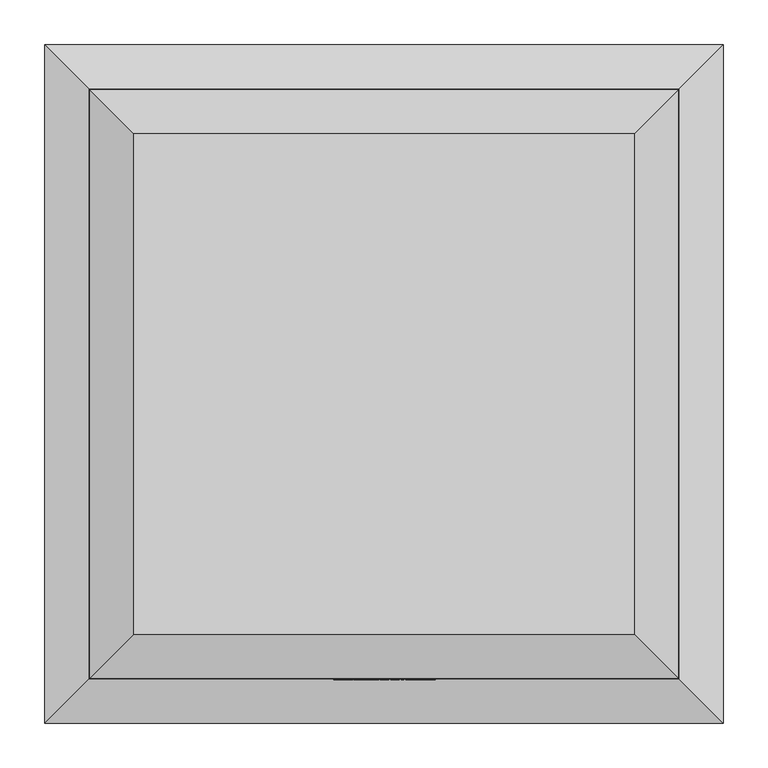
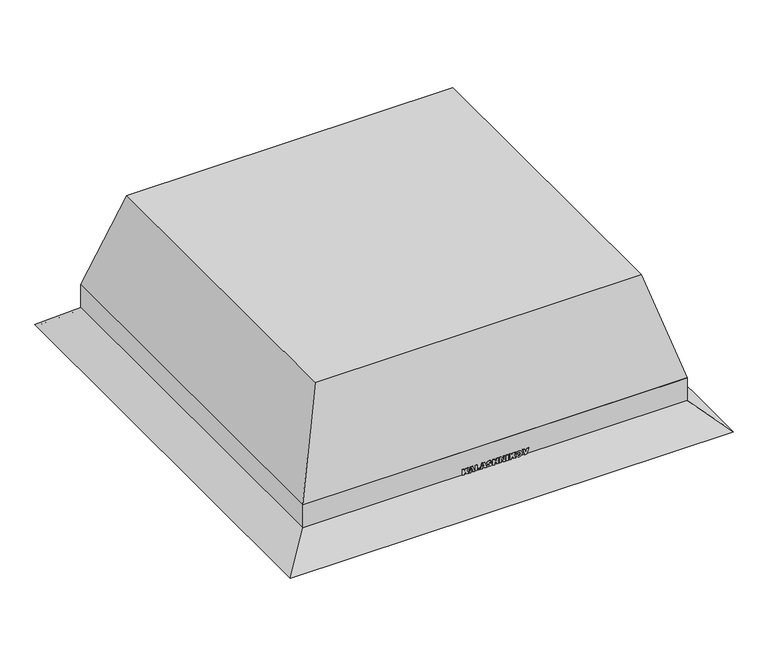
"""IFC4 building model written with IfcOpenShell, lengths in millimetres: proxy geometry, ADSK_Дестратификатор_Электрический : KVF-V-11."""

from ifc_helpers import new_model, si_unit, frame, origin, place, context, project, spatial, polyline, outline, extrude, faceted_brep, source, transform, mapped, element, save


def mechanical_equipment_aabc1666(model_context):
    return source(origin(), model_context, "Body", "SolidModel", [
        extrude(outline(polyline([(143.75, -56.4705882), (133.75, -56.4705882), (133.75, -53.3333333), (135.5147059, -53.3333333), (137.5245098, -51.5625), (133.75, -49.7303922), (133.75, -45.8823529), (140.0275735, -49.3566176), (143.75, -46.0784314), (143.75, -50.3492647), (139.9724265, -53.3333333), (143.75, -53.3333333), (143.75, -56.4705882)])), frame((0.0, -331.0, 0.0), z_axis=(0.0, 1.0, 0.0), x_axis=(0.0, 0.0, 1.0)), (0.0, 0.0, 1.0), 1.0),
        extrude(outline(polyline([(135.3186275, -38.8848039), (133.75, -38.4313725), (133.75, -35.0980392), (143.75, -38.471201), (143.75, -42.5091912), (133.75, -45.8823529), (133.75, -42.5490196), (135.3186275, -42.1170343), (135.3186275, -38.8848039)]), holes=[polyline([(137.6715686, -39.4791667), (137.6715686, -41.4675245), (141.2040441, -40.4901961), (137.6715686, -39.4791667)])]), frame((0.0, -331.0, 0.0), z_axis=(0.0, 1.0, 0.0), x_axis=(0.0, 0.0, 1.0)), (0.0, 0.0, 1.0), 1.0),
        extrude(outline(polyline([(143.75, -34.1176471), (133.75, -34.1176471), (133.75, -26.2745098), (136.1029412, -26.2745098), (136.1029412, -30.9803922), (143.75, -30.9803922), (143.75, -34.1176471)])), frame((0.0, -331.0, 0.0), z_axis=(0.0, 1.0, 0.0), x_axis=(0.0, 0.0, 1.0)), (0.0, 0.0, 1.0), 1.0),
        extrude(outline(polyline([(135.3186275, -18.8848039), (133.75, -18.4313725), (133.75, -15.0980392), (143.75, -18.471201), (143.75, -22.5091912), (133.75, -25.8823529), (133.75, -22.5490196), (135.3186275, -22.1170343), (135.3186275, -18.8848039)]), holes=[polyline([(137.6715686, -19.4791667), (137.6715686, -21.4675245), (141.2040441, -20.4901961), (137.6715686, -19.4791667)])]), frame((0.0, -331.0, 0.0), z_axis=(0.0, 1.0, 0.0), x_axis=(0.0, 0.0, 1.0)), (0.0, 0.0, 1.0), 1.0),
        extrude(outline(polyline([(137.0894608, -14.7058824), (134.5526961, -13.5998775), (133.5539216, -10.088848), (133.9797794, -7.6930147), (135.2313113, -6.2147672), (137.03125, -5.6862745), (138.5370711, -6.0814951), (139.6629902, -7.3468137), (140.5606618, -10.2267157), (142.1813725, -10.3584559), (141.8550858, -9.5848652), (140.8088235, -9.2156863), (140.9895833, -6.0784314), (143.2383578, -7.2564338), (143.9460784, -10.1317402), (143.5539216, -12.5520833), (142.4785539, -13.8740809), (141.026348, -14.3137255), (139.0992647, -13.4466912), (137.8737745, -10.5729167), (136.5686275, -8.8235294), (135.8318015, -9.1375613), (135.5147059, -10.0306373), (136.1458333, -11.2285539), (137.2794118, -11.5686275), (137.0894608, -14.7058824)])), frame((0.0, -331.0, 0.0), z_axis=(0.0, 1.0, 0.0), x_axis=(0.0, 0.0, 1.0)), (0.0, 0.0, 1.0), 1.0),
        extrude(outline(polyline([(143.75, -4.1176471), (133.75, -4.1176471), (133.75, -0.9803922), (137.8676471, -0.9803922), (137.8676471, 2.3529412), (133.75, 2.3529412), (133.75, 5.4901961), (143.75, 5.4901961), (143.75, 2.3529412), (140.2205882, 2.3529412), (140.2205882, -0.9803922), (143.75, -0.9803922), (143.75, -4.1176471)])), frame((0.0, -331.0, 0.0), z_axis=(0.0, 1.0, 0.0), x_axis=(0.0, 0.0, 1.0)), (0.0, 0.0, 1.0), 1.0),
        extrude(outline(polyline([(143.75, 7.4509804), (133.75, 7.4509804), (133.75, 10.3921569), (139.2401961, 10.3921569), (133.75, 14.1176471), (133.75, 17.0588235), (143.75, 17.0588235), (143.75, 14.1176471), (138.2230392, 14.1176471), (143.75, 10.3707108), (143.75, 7.4509804)])), frame((0.0, -331.0, 0.0), z_axis=(0.0, 1.0, 0.0), x_axis=(0.0, 0.0, 1.0)), (0.0, 0.0, 1.0), 1.0),
        extrude(outline(polyline([(22.3529412, -331.0), (19.2156863, -331.0), (19.2156863, -330.0), (22.3529412, -330.0), (22.3529412, -331.0)])), frame((0.0, 0.0, 133.75), z_axis=(0.0, 0.0, 1.0), x_axis=(1.0, 0.0, 0.0)), (0.0, 0.0, 1.0), 10.0),
        extrude(outline(polyline([(143.75, 24.5098039), (133.75, 24.5098039), (133.75, 27.6470588), (135.5147059, 27.6470588), (137.5245098, 29.4178922), (133.75, 31.25), (133.75, 35.0980392), (140.0275735, 31.6237745), (143.75, 34.9019608), (143.75, 30.6311275), (139.9724265, 27.6470588), (143.75, 27.6470588), (143.75, 24.5098039)])), frame((0.0, -331.0, 0.0), z_axis=(0.0, 1.0, 0.0), x_axis=(0.0, 0.0, 1.0)), (0.0, 0.0, 1.0), 1.0),
        extrude(outline(polyline([(138.7438725, 35.6862745), (135.8103554, 36.3771446), (134.096201, 38.1801471), (133.5539216, 40.9895833), (134.1804534, 43.7760417), (135.9359681, 45.4871324), (138.8265931, 46.0784314), (142.5995711, 44.7242647), (143.9460784, 40.8639706), (142.5750613, 37.0542279), (138.7438725, 35.6862745)]), holes=[polyline([(138.7438725, 38.8235294), (140.9313725, 39.3811275), (141.5931373, 40.8578431), (140.9420956, 42.3805147), (138.8786765, 42.9411765), (136.5548407, 42.4034926), (135.9068627, 40.8854167), (136.5686275, 39.3780637), (138.7438725, 38.8235294)])]), frame((0.0, -331.0, 0.0), z_axis=(0.0, 1.0, 0.0), x_axis=(0.0, 0.0, 1.0)), (0.0, 0.0, 1.0), 1.0),
        extrude(outline(polyline([(143.75, 46.8627451), (133.75, 50.5790441), (133.75, 53.9093137), (143.75, 57.6470588), (143.75, 54.3137255), (136.5533088, 52.254902), (143.75, 50.1930147), (143.75, 46.8627451)])), frame((0.0, -331.0, 0.0), z_axis=(0.0, 1.0, 0.0), x_axis=(0.0, 0.0, 1.0)), (0.0, 0.0, 1.0), 1.0),
        faceted_brep([(180.0, 180.0, 30.0), (130.0, 130.0, 80.0), (130.0, 1.5, 80.0), (180.0, 1.5, 30.0), (130.0, -130.0, 80.0), (180.0, -180.0, 30.0), (180.0, -1.5, 30.0), (130.0, -1.5, 80.0), (127.0, 127.0, 78.7573593), (175.7573593, 175.7573593, 30.0), (175.7573593, 1.5, 30.0), (127.0, 1.5, 78.7573593), (175.7573593, -175.7573593, 30.0), (127.0, -127.0, 78.7573593), (127.0, -1.5, 78.7573593), (175.7573593, -1.5, 30.0), (127.0, 127.0, 117.5), (127.0, 1.5, 117.5), (127.0, -127.0, 117.5), (127.0, -1.5, 117.5), (130.0, 130.0, 117.5), (130.0, 1.5, 117.5), (130.0, -130.0, 117.5), (130.0, -1.5, 117.5), (1.5, -130.0, 80.0), (1.5, -180.0, 30.0), (-130.0, -130.0, 80.0), (-180.0, -180.0, 30.0), (-1.5, -180.0, 30.0), (-1.5, -130.0, 80.0), (1.5, -175.7573593, 30.0), (1.5, -127.0, 78.7573593), (-175.7573593, -175.7573593, 30.0), (-127.0, -127.0, 78.7573593), (-1.5, -127.0, 78.7573593), (-1.5, -175.7573593, 30.0), (1.5, -127.0, 117.5), (-127.0, -127.0, 117.5), (-1.5, -127.0, 117.5), (1.5, -130.0, 117.5), (-130.0, -130.0, 117.5), (-1.5, -130.0, 117.5), (-130.0, -1.5, 80.0), (-180.0, -1.5, 30.0), (-130.0, 130.0, 80.0), (-180.0, 180.0, 30.0), (-180.0, 1.5, 30.0), (-130.0, 1.5, 80.0), (-175.7573593, -1.5, 30.0), (-127.0, -1.5, 78.7573593), (-175.7573593, 175.7573593, 30.0), (-127.0, 127.0, 78.7573593), (-127.0, 1.5, 78.7573593), (-175.7573593, 1.5, 30.0), (-127.0, -1.5, 117.5), (-127.0, 127.0, 117.5), (-127.0, 1.5, 117.5), (-130.0, -1.5, 117.5), (-130.0, 130.0, 117.5), (-130.0, 1.5, 117.5), (1.5, 180.0, 30.0), (1.5, 130.0, 80.0), (-1.5, 130.0, 80.0), (-1.5, 180.0, 30.0), (-110.0, 1.5, 30.0), (-110.0, -1.5, 30.0), (-1.5, -108.5, 30.0), (1.5, -108.5, 30.0), (110.0, -1.5, 30.0), (110.0, 1.5, 30.0), (1.5, 175.7573593, 30.0), (1.5, 108.5, 30.0), (-1.5, 108.5, 30.0), (-1.5, 175.7573593, 30.0), (1.5, 127.0, 78.7573593), (-1.5, 127.0, 78.7573593), (1.5, 127.0, 117.5), (-1.5, 127.0, 117.5), (1.5, 130.0, 117.5), (-1.5, 130.0, 117.5), (80.0, 80.0, 0.0), (30.0, 30.0, 50.0), (30.0, 1.5, 50.0), (80.0, 1.5, 0.0), (30.0, -30.0, 50.0), (80.0, -80.0, 0.0), (80.0, -1.5, 0.0), (30.0, -1.5, 50.0), (27.0, 27.0, 48.7573593), (75.7573593, 75.7573593, 0.0), (75.7573593, 1.5, 0.0), (27.0, 1.5, 48.7573593), (75.7573593, -75.7573593, 0.0), (27.0, -27.0, 48.7573593), (27.0, -1.5, 48.7573593), (75.7573593, -1.5, 0.0), (27.0, 27.0, 90.0), (27.0, 1.5, 90.0), (27.0, -27.0, 90.0), (27.0, -1.5, 90.0), (30.0, 30.0, 90.0), (30.0, 1.5, 90.0), (30.0, -30.0, 90.0), (30.0, -1.5, 90.0), (1.5, -30.0, 50.0), (1.5, -80.0, 0.0), (-30.0, -30.0, 50.0), (-80.0, -80.0, 0.0), (-1.5, -80.0, 0.0), (-1.5, -30.0, 50.0), (1.5, -75.7573593, 0.0), (1.5, -27.0, 48.7573593), (-75.7573593, -75.7573593, 0.0), (-27.0, -27.0, 48.7573593), (-1.5, -27.0, 48.7573593), (-1.5, -75.7573593, 0.0), (1.5, -27.0, 90.0), (-27.0, -27.0, 90.0), (-1.5, -27.0, 90.0), (1.5, -30.0, 90.0), (-30.0, -30.0, 90.0), (-1.5, -30.0, 90.0), (-30.0, -1.5, 50.0), (-80.0, -1.5, 0.0), (-30.0, 30.0, 50.0), (-80.0, 80.0, 0.0), (-80.0, 1.5, 0.0), (-30.0, 1.5, 50.0), (-75.7573593, -1.5, 0.0), (-27.0, -1.5, 48.7573593), (-75.7573593, 75.7573593, 0.0), (-27.0, 27.0, 48.7573593), (-27.0, 1.5, 48.7573593), (-75.7573593, 1.5, 0.0), (-27.0, -1.5, 90.0), (-27.0, 27.0, 90.0), (-27.0, 1.5, 90.0), (-30.0, -1.5, 90.0), (-30.0, 30.0, 90.0), (-30.0, 1.5, 90.0), (1.5, 80.0, 0.0), (1.5, 30.0, 50.0), (-1.5, 30.0, 50.0), (-1.5, 80.0, 0.0), (1.5, 75.7573593, 0.0), (1.5, 1.5, 0.0), (1.5, -1.5, 0.0), (-1.5, -1.5, 0.0), (-1.5, 1.5, 0.0), (-1.5, 75.7573593, 0.0), (1.5, 27.0, 48.7573593), (-1.5, 27.0, 48.7573593), (1.5, 27.0, 90.0), (-1.5, 27.0, 90.0), (1.5, 30.0, 90.0), (-1.5, 30.0, 90.0), (380.0, 380.0, 90.0), (330.0, 330.0, 133.75), (330.0, -330.0, 133.75), (380.0, -380.0, 90.0), (327.0, 327.0, 132.3886953), (375.4442232, 375.4442232, 90.0), (375.4442232, 1.5, 90.0), (327.0, 1.5, 132.3886953), (375.4442232, -375.4442232, 90.0), (327.0, -327.0, 132.3886953), (327.0, -1.5, 132.3886953), (375.4442232, -1.5, 90.0), (327.0, 327.0, 175.0), (327.0, 1.5, 133.75), (327.0, -1.5, 133.75), (327.0, -327.0, 175.0), (330.0, 330.0, 175.0), (330.0, -330.0, 175.0), (-330.0, -330.0, 133.75), (-380.0, -380.0, 90.0), (1.5, -375.4442232, 90.0), (1.5, -327.0, 132.3886953), (-375.4442232, -375.4442232, 90.0), (-327.0, -327.0, 132.3886953), (-1.5, -327.0, 132.3886953), (-1.5, -375.4442232, 90.0), (1.5, -327.0, 133.75), (-1.5, -327.0, 133.75), (-327.0, -327.0, 175.0), (-330.0, -330.0, 175.0), (-330.0, 330.0, 133.75), (-380.0, 380.0, 90.0), (-375.4442232, -1.5, 90.0), (-327.0, -1.5, 132.3886953), (-375.4442232, 375.4442232, 90.0), (-327.0, 327.0, 132.3886953), (-327.0, 1.5, 132.3886953), (-375.4442232, 1.5, 90.0), (-327.0, -1.5, 133.75), (-327.0, 1.5, 133.75), (-327.0, 327.0, 175.0), (-330.0, 330.0, 175.0), (-310.0, 1.5, 90.0), (-310.0, -1.5, 90.0), (-1.5, -310.0, 90.0), (1.5, -310.0, 90.0), (310.0, -1.5, 90.0), (310.0, 1.5, 90.0), (1.5, 375.4442232, 90.0), (1.5, 310.0, 90.0), (-1.5, 310.0, 90.0), (-1.5, 375.4442232, 90.0), (1.5, 327.0, 132.3886953), (-1.5, 327.0, 132.3886953), (-1.5, 327.0, 133.75), (1.5, 327.0, 133.75), (280.0, 280.0, 60.0), (230.0, 230.0, 110.0), (230.0, 1.5, 110.0), (280.0, 1.5, 60.0), (230.0, -230.0, 110.0), (280.0, -280.0, 60.0), (280.0, -1.5, 60.0), (230.0, -1.5, 110.0), (227.0, 227.0, 108.7573593), (275.7573593, 275.7573593, 60.0), (275.7573593, 1.5, 60.0), (227.0, 1.5, 108.7573593), (275.7573593, -275.7573593, 60.0), (227.0, -227.0, 108.7573593), (227.0, -1.5, 108.7573593), (275.7573593, -1.5, 60.0), (227.0, 227.0, 160.0), (227.0, 1.5, 133.75), (227.0, -1.5, 133.75), (227.0, -227.0, 160.0), (230.0, 230.0, 160.0), (230.0, -230.0, 160.0), (230.0, -1.5, 133.75), (230.0, 1.5, 133.75), (1.5, -230.0, 110.0), (1.5, -280.0, 60.0), (-230.0, -230.0, 110.0), (-280.0, -280.0, 60.0), (-1.5, -280.0, 60.0), (-1.5, -230.0, 110.0), (1.5, -275.7573593, 60.0), (1.5, -227.0, 108.7573593), (-275.7573593, -275.7573593, 60.0), (-227.0, -227.0, 108.7573593), (-1.5, -227.0, 108.7573593), (-1.5, -275.7573593, 60.0), (1.5, -227.0, 133.75), (-1.5, -227.0, 133.75), (-227.0, -227.0, 160.0), (-230.0, -230.0, 160.0), (-1.5, -230.0, 133.75), (1.5, -230.0, 133.75), (-230.0, -1.5, 110.0), (-280.0, -1.5, 60.0), (-230.0, 230.0, 110.0), (-280.0, 280.0, 60.0), (-280.0, 1.5, 60.0), (-230.0, 1.5, 110.0), (-275.7573593, -1.5, 60.0), (-227.0, -1.5, 108.7573593), (-275.7573593, 275.7573593, 60.0), (-227.0, 227.0, 108.7573593), (-227.0, 1.5, 108.7573593), (-275.7573593, 1.5, 60.0), (-227.0, -1.5, 133.75), (-227.0, 1.5, 133.75), (-227.0, 227.0, 160.0), (-230.0, 230.0, 160.0), (-230.0, 1.5, 133.75), (-230.0, -1.5, 133.75), (1.5, 280.0, 60.0), (1.5, 230.0, 110.0), (-1.5, 230.0, 110.0), (-1.5, 280.0, 60.0), (-210.0, 1.5, 60.0), (-210.0, -1.5, 60.0), (-1.5, -208.5, 60.0), (1.5, -208.5, 60.0), (210.0, -1.5, 60.0), (210.0, 1.5, 60.0), (1.5, 275.7573593, 60.0), (1.5, 208.5, 60.0), (-1.5, 208.5, 60.0), (-1.5, 275.7573593, 60.0), (1.5, 227.0, 108.7573593), (-1.5, 227.0, 108.7573593), (-1.5, 227.0, 133.75), (1.5, 227.0, 133.75), (1.5, 230.0, 133.75), (-1.5, 230.0, 133.75), (-1.5, -1.5, 133.75), (1.5, -1.5, 133.75), (1.5, 1.5, 133.75), (-1.5, 1.5, 133.75)], [[[0, 1, 2, 3]], [[4, 5, 6, 7]], [[8, 9, 10, 11]], [[12, 13, 14, 15]], [[16, 8, 11, 17]], [[13, 18, 19, 14]], [[1, 20, 21, 2]], [[22, 4, 7, 23]], [[5, 4, 24, 25]], [[26, 27, 28, 29]], [[13, 12, 30, 31]], [[32, 33, 34, 35]], [[18, 13, 31, 36]], [[33, 37, 38, 34]], [[4, 22, 39, 24]], [[40, 26, 29, 41]], [[27, 26, 42, 43]], [[44, 45, 46, 47]], [[33, 32, 48, 49]], [[50, 51, 52, 53]], [[37, 33, 49, 54]], [[51, 55, 56, 52]], [[26, 40, 57, 42]], [[58, 44, 47, 59]], [[1, 0, 60, 61]], [[45, 44, 62, 63]], [[6, 5, 25, 28, 27, 43, 46, 45, 63, 60, 0, 3], [64, 65, 48, 32, 35, 66, 67, 30, 12, 15, 68, 69, 10, 9, 70, 71, 72, 73, 50, 53]], [[9, 8, 74, 70]], [[51, 50, 73, 75]], [[8, 16, 76, 74]], [[55, 51, 75, 77]], [[21, 20, 78, 76, 16, 17]], [[22, 23, 19, 18, 36, 39]], [[57, 40, 41, 38, 37, 54]], [[58, 59, 56, 55, 77, 79]], [[20, 1, 61, 78]], [[44, 58, 79, 62]], [[80, 81, 82, 83]], [[84, 85, 86, 87]], [[88, 89, 90, 91]], [[92, 93, 94, 95]], [[96, 88, 91, 97]], [[93, 98, 99, 94]], [[81, 100, 101, 82]], [[102, 84, 87, 103]], [[85, 84, 104, 105]], [[106, 107, 108, 109]], [[93, 92, 110, 111]], [[112, 113, 114, 115]], [[98, 93, 111, 116]], [[113, 117, 118, 114]], [[84, 102, 119, 104]], [[120, 106, 109, 121]], [[107, 106, 122, 123]], [[124, 125, 126, 127]], [[113, 112, 128, 129]], [[130, 131, 132, 133]], [[117, 113, 129, 134]], [[131, 135, 136, 132]], [[106, 120, 137, 122]], [[138, 124, 127, 139]], [[81, 80, 140, 141]], [[125, 124, 142, 143]], [[86, 85, 105, 108, 107, 123, 126, 125, 143, 140, 80, 83], [90, 89, 144, 145], [92, 95, 146, 110], [112, 115, 147, 128], [133, 148, 149, 130]], [[89, 88, 150, 144]], [[131, 130, 149, 151]], [[88, 96, 152, 150]], [[135, 131, 151, 153]], [[101, 100, 154, 152, 96, 97]], [[102, 103, 99, 98, 116, 119]], [[137, 120, 121, 118, 117, 134]], [[138, 139, 136, 135, 153, 155]], [[100, 81, 141, 154]], [[124, 138, 155, 142]], [[156, 157, 158, 159]], [[160, 161, 162, 163]], [[164, 165, 166, 167]], [[168, 160, 163, 169, 170, 166, 165, 171]], [[158, 157, 172, 173]], [[159, 158, 174, 175]], [[165, 164, 176, 177]], [[178, 179, 180, 181]], [[171, 165, 177, 182, 183, 180, 179, 184]], [[158, 173, 185, 174]], [[175, 174, 186, 187]], [[179, 178, 188, 189]], [[190, 191, 192, 193]], [[184, 179, 189, 194, 195, 192, 191, 196]], [[174, 185, 197, 186]], [[157, 156, 187, 186]], [[156, 159, 175, 187], [198, 199, 188, 178, 181, 200, 201, 176, 164, 167, 202, 203, 162, 161, 204, 205, 206, 207, 190, 193]], [[161, 160, 208, 204]], [[191, 190, 207, 209]], [[160, 168, 196, 191, 209, 210, 211, 208]], [[173, 172, 197, 185], [168, 171, 184, 196]], [[172, 157, 186, 197]], [[212, 213, 214, 215]], [[216, 217, 218, 219]], [[220, 221, 222, 223]], [[224, 225, 226, 227]], [[228, 220, 223, 229, 230, 226, 225, 231]], [[213, 232, 233, 216, 219, 234, 235, 214]], [[217, 216, 236, 237]], [[238, 239, 240, 241]], [[225, 224, 242, 243]], [[244, 245, 246, 247]], [[231, 225, 243, 248, 249, 246, 245, 250]], [[216, 233, 251, 238, 241, 252, 253, 236]], [[239, 238, 254, 255]], [[256, 257, 258, 259]], [[245, 244, 260, 261]], [[262, 263, 264, 265]], [[250, 245, 261, 266, 267, 264, 263, 268]], [[238, 251, 269, 256, 259, 270, 271, 254]], [[213, 212, 272, 273]], [[257, 256, 274, 275]], [[218, 217, 237, 240, 239, 255, 258, 257, 275, 272, 212, 215], [276, 277, 260, 244, 247, 278, 279, 242, 224, 227, 280, 281, 222, 221, 282, 283, 284, 285, 262, 265]], [[221, 220, 286, 282]], [[263, 262, 285, 287]], [[220, 228, 268, 263, 287, 288, 289, 286]], [[233, 232, 269, 251], [228, 231, 250, 268]], [[232, 213, 273, 290, 291, 274, 256, 269]], [[199, 255, 254, 271, 194, 189, 188]], [[277, 43, 42, 57, 54, 49, 48, 65, 123, 122, 137, 134, 129, 128, 147, 292, 266, 261, 260]], [[86, 68, 15, 14, 19, 23, 7, 6, 280, 227, 226, 230, 293, 146, 95, 94, 99, 103, 87]], [[218, 202, 167, 166, 170, 234, 219]], [[203, 215, 214, 235, 169, 163, 162]], [[281, 3, 2, 21, 17, 11, 10, 69, 83, 82, 101, 97, 91, 90, 145, 294, 229, 223, 222]], [[126, 64, 53, 52, 56, 59, 47, 46, 276, 265, 264, 267, 295, 148, 133, 132, 136, 139, 127]], [[258, 198, 193, 192, 195, 270, 259]], [[255, 199, 198, 258]], [[43, 277, 276, 46]], [[123, 65, 64, 126]], [[68, 86, 83, 69]], [[280, 6, 3, 281]], [[202, 218, 215, 203]], [[230, 229, 294, 289, 288, 295, 267, 266, 292, 249, 248, 293]], [[194, 271, 270, 195]], [[234, 170, 169, 235]], [[182, 253, 252, 183]], [[290, 211, 210, 291]], [[201, 237, 236, 253, 182, 177, 176]], [[279, 25, 24, 39, 36, 31, 30, 67, 105, 104, 119, 116, 111, 110, 146, 293, 248, 243, 242]], [[140, 71, 70, 74, 76, 78, 61, 60, 283, 282, 286, 289, 294, 145, 144, 150, 152, 154, 141]], [[272, 205, 204, 208, 211, 290, 273]], [[206, 275, 274, 291, 210, 209, 207]], [[284, 63, 62, 79, 77, 75, 73, 72, 143, 142, 155, 153, 151, 149, 148, 295, 288, 287, 285]], [[108, 66, 35, 34, 38, 41, 29, 28, 278, 247, 246, 249, 292, 147, 115, 114, 118, 121, 109]], [[240, 200, 181, 180, 183, 252, 241]], [[237, 201, 200, 240]], [[25, 279, 278, 28]], [[105, 67, 66, 108]], [[71, 140, 143, 72]], [[283, 60, 63, 284]], [[205, 272, 275, 206]]]),
        faceted_brep([(280.0, 280.0, 350.0), (-280.0, 280.0, 350.0), (-280.0, -280.0, 350.0), (280.0, -280.0, 350.0), (330.0, 330.0, 175.0), (330.0, -330.0, 175.0), (-330.0, -330.0, 175.0), (-330.0, 330.0, 175.0)], [[[0, 1, 2, 3]], [[4, 5, 6, 7]], [[4, 7, 1, 0]], [[7, 6, 2, 1]], [[6, 5, 3, 2]], [[5, 4, 0, 3]]]),
    ])


if __name__ == "__main__":
    model = new_model("IFC4")
    model_context = context("Model", 3, world=origin())
    ifc_project = project(units=[si_unit("LENGTHUNIT", "METRE", prefix="MILLI")], contexts=[model_context])
    site = spatial("IfcSite", under=ifc_project)
    building = spatial("IfcBuilding", under=site)
    placement = place(None, origin())
    mechanical_equipment_shape = mechanical_equipment_aabc1666(model_context)
    element("IfcBuildingElementProxy", 1, Name="ADSK_Дестратификатор_Электрический : KVF-V-11", ObjectType="ADSK_Дестратификатор_Электрический : KVF-V-11", at=placement, inside=building, context=model_context, shape_type="MappedRepresentation", body=[
        mapped(mechanical_equipment_shape, transform((0.0, 0.0, 0.0), x_axis=(1.0, 0.0, 0.0), y_axis=(0.0, 1.0, 0.0), z_axis=(0.0, 0.0, 1.0))),
    ])
    save(model, "model.ifc")
